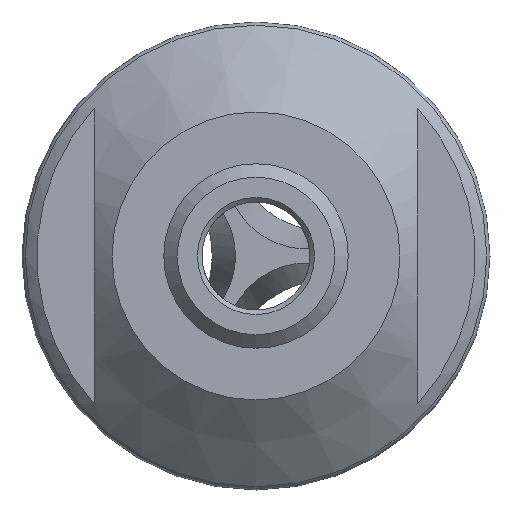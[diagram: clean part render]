
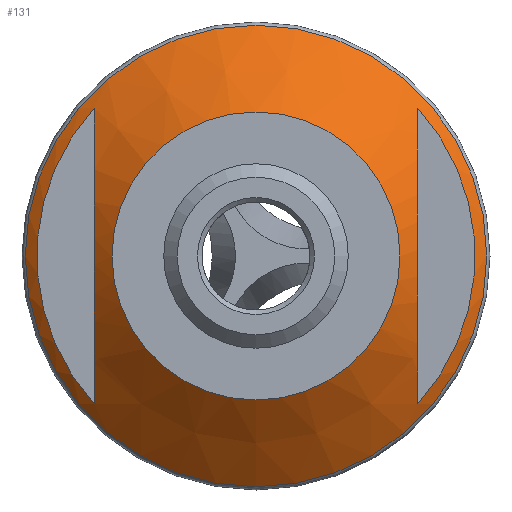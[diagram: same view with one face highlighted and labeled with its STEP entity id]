
A CAD part, front view. The second image highlights one B-rep face of the part: STEP entity #131.
In plain terms, the highlighted conical face has half-angle 50 degrees and reference radius 16 mm.
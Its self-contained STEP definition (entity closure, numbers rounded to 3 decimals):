
#131=ADVANCED_FACE('',(#163,#164,#165,#166),#156,.T.);
#156=CONICAL_SURFACE('',#447,16.,50.);
#163=FACE_BOUND('',#206,.T.);
#164=FACE_BOUND('',#207,.T.);
#165=FACE_BOUND('',#208,.T.);
#166=FACE_BOUND('',#209,.T.);
#206=EDGE_LOOP('',(#269,#270));
#207=EDGE_LOOP('',(#271));
#208=EDGE_LOOP('',(#272));
#209=EDGE_LOOP('',(#273,#274));
#252=B_SPLINE_CURVE_WITH_KNOTS('',3,(#580,#581,#582,#583,#584,#585,#586,
#587,#588,#589),.UNSPECIFIED.,.F.,.F.,(4,2,2,2,4),(0.,0.25,0.5,0.75,1.),
 .UNSPECIFIED.);
#253=B_SPLINE_CURVE_WITH_KNOTS('',3,(#597,#598,#599,#600,#601,#602,#603,
#604,#605,#606),.UNSPECIFIED.,.F.,.F.,(4,2,2,2,4),(0.,0.25,0.5,0.75,1.),
 .UNSPECIFIED.);
#269=ORIENTED_EDGE('',*,*,#384,.T.);
#270=ORIENTED_EDGE('',*,*,#385,.T.);
#271=ORIENTED_EDGE('',*,*,#386,.T.);
#272=ORIENTED_EDGE('',*,*,#387,.F.);
#273=ORIENTED_EDGE('',*,*,#388,.T.);
#274=ORIENTED_EDGE('',*,*,#389,.T.);
#349=VERTEX_POINT('',#578);
#350=VERTEX_POINT('',#579);
#351=VERTEX_POINT('',#591);
#352=VERTEX_POINT('',#593);
#353=VERTEX_POINT('',#595);
#354=VERTEX_POINT('',#596);
#384=EDGE_CURVE('',#349,#350,#424,.T.);
#385=EDGE_CURVE('',#350,#349,#252,.T.);
#386=EDGE_CURVE('',#351,#351,#425,.T.);
#387=EDGE_CURVE('',#352,#352,#426,.T.);
#388=EDGE_CURVE('',#353,#354,#427,.T.);
#389=EDGE_CURVE('',#354,#353,#253,.T.);
#424=CIRCLE('',#443,24.342);
#425=CIRCLE('',#444,25.643);
#426=CIRCLE('',#445,16.);
#427=CIRCLE('',#446,24.342);
#443=AXIS2_PLACEMENT_3D('',#577,#488,#489);
#444=AXIS2_PLACEMENT_3D('',#590,#490,#491);
#445=AXIS2_PLACEMENT_3D('',#592,#492,#493);
#446=AXIS2_PLACEMENT_3D('',#594,#494,#495);
#447=AXIS2_PLACEMENT_3D('',#607,#496,#497);
#488=DIRECTION('',(0.,1.,0.));
#489=DIRECTION('',(1.,0.,0.));
#490=DIRECTION('',(0.,-1.,0.));
#491=DIRECTION('',(0.,0.,-1.));
#492=DIRECTION('',(0.,-1.,0.));
#493=DIRECTION('',(0.,0.,-1.));
#494=DIRECTION('',(0.,1.,0.));
#495=DIRECTION('',(1.,0.,0.));
#496=DIRECTION('',(0.,1.,0.));
#497=DIRECTION('',(0.,0.,1.));
#577=CARTESIAN_POINT('',(0.,21.,0.));
#578=CARTESIAN_POINT('',(-18.,21.,-16.387));
#579=CARTESIAN_POINT('',(-18.,21.,16.387));
#580=CARTESIAN_POINT('',(-18.,21.,16.387));
#581=CARTESIAN_POINT('',(-18.,19.575,13.864));
#582=CARTESIAN_POINT('',(-18.,18.276,11.277));
#583=CARTESIAN_POINT('',(-18.,16.304,5.792));
#584=CARTESIAN_POINT('',(-18.,15.675,2.894));
#585=CARTESIAN_POINT('',(-18.,15.681,-2.938));
#586=CARTESIAN_POINT('',(-18.,16.319,-5.836));
#587=CARTESIAN_POINT('',(-18.,18.266,-11.248));
#588=CARTESIAN_POINT('',(-18.,19.571,-13.857));
#589=CARTESIAN_POINT('',(-18.,21.,-16.387));
#590=CARTESIAN_POINT('',(0.,22.091,0.));
#591=CARTESIAN_POINT('',(0.,22.091,-25.643));
#592=CARTESIAN_POINT('',(0.,14.,0.));
#593=CARTESIAN_POINT('',(0.,14.,-16.));
#594=CARTESIAN_POINT('',(0.,21.,0.));
#595=CARTESIAN_POINT('',(18.,21.,16.387));
#596=CARTESIAN_POINT('',(18.,21.,-16.387));
#597=CARTESIAN_POINT('',(18.,21.,-16.387));
#598=CARTESIAN_POINT('',(18.,19.571,-13.857));
#599=CARTESIAN_POINT('',(18.,18.266,-11.248));
#600=CARTESIAN_POINT('',(18.,16.319,-5.836));
#601=CARTESIAN_POINT('',(18.,15.681,-2.938));
#602=CARTESIAN_POINT('',(18.,15.675,2.894));
#603=CARTESIAN_POINT('',(18.,16.304,5.792));
#604=CARTESIAN_POINT('',(18.,18.276,11.277));
#605=CARTESIAN_POINT('',(18.,19.575,13.864));
#606=CARTESIAN_POINT('',(18.,21.,16.387));
#607=CARTESIAN_POINT('',(0.,14.,0.));
